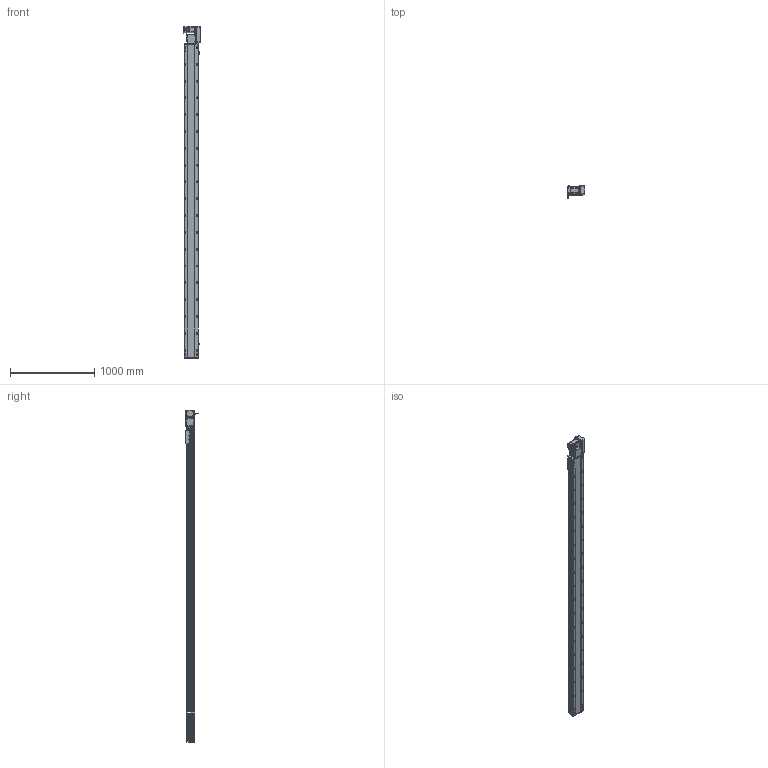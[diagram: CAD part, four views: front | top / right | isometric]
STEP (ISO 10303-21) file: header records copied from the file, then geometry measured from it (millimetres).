
FILE_DESCRIPTION (( 'STEP AP214' ), '1' );
FILE_NAME ('RTB17S-XX-3450-R-M75-C4.STEP', '2025-12-12T01:53:24', ( '' ), ( '' ), 'SwSTEP 2.0', 'SolidWorks 2018', '' );
FILE_SCHEMA (( 'AUTOMOTIVE_DESIGN' ));
Length unit declared in the file: millimetre
Products named in the file (15): RTB17S-L-007奻裔^RTB17S-XX-XX-R-M75-C4; RTB22S-GY-018P^RTB17S-R-々湍釱蚾饜-750W_RTB17S-XX-XX-R-M75-C4; RTB17S-L-014-T20-P75--々湍釱^RTB17S-R-々湍釱蚾饜-750W_RTB17S-XX-XX-R-M75-C4; RTB17S-XX-3450-R-M75-C4; RTB17S-賑釱^RTB17S-XX-XX-R-M75-C4; RTB17S-L-001-耜醱啣^RTB17S-XX-XX-R-M75-C4; RTB17S-R-々湍釱蚾饜-750W^RTB17S-XX-XX-R-M75-C4; EE672^RTB17S-XX-XX-R-M75-C4; RTB17S-L-004-賑釱^RTB17S-賑釱_RTB17S-XX-XX-R-M75-C4; RTH13-BL-012覜茼え俋离^RTB17S-賑釱_RTB17S-XX-XX-R-M75-C4; RTB22S-GY-005P^RTB17S-R-々湍釱蚾饜-750W_RTB17S-XX-XX-R-M75-C4; 750W萇儂^RTB17S-XX-XX-R-M75-C4; RTB17-R-011菁釱^RTB17S-XX-XX-R-M75-C4; RTB22S-GY-008-M75--萇儂啣^RTB17S-R-々湍釱蚾饜-750W_RTB17S-XX-XX-R-M75-C4; RTB22S-GY-017P^RTB17S-R-々湍釱蚾饜-750W_RTB17S-XX-XX-R-M75-C4
Assembly tree (17 placements, depth 3):
  RTB17S-XX-3450-R-M75-C4
    RTB17-R-011菁釱^RTB17S-XX-XX-R-M75-C4
    EE672^RTB17S-XX-XX-R-M75-C4  x3
    RTB17S-L-001-耜醱啣^RTB17S-XX-XX-R-M75-C4
    RTB17S-賑釱^RTB17S-XX-XX-R-M75-C4
      RTB17S-L-004-賑釱^RTB17S-賑釱_RTB17S-XX-XX-R-M75-C4
      RTH13-BL-012覜茼え俋离^RTB17S-賑釱_RTB17S-XX-XX-R-M75-C4
    RTB17S-L-007奻裔^RTB17S-XX-XX-R-M75-C4
    750W萇儂^RTB17S-XX-XX-R-M75-C4
    RTB17S-R-々湍釱蚾饜-750W^RTB17S-XX-XX-R-M75-C4
      RTB17S-L-014-T20-P75--々湍釱^RTB17S-R-々湍釱蚾饜-750W_RTB17S-XX-XX-R-M75-C4
      RTB22S-GY-005P^RTB17S-R-々湍釱蚾饜-750W_RTB17S-XX-XX-R-M75-C4
      RTB22S-GY-017P^RTB17S-R-々湍釱蚾饜-750W_RTB17S-XX-XX-R-M75-C4  x2
      RTB22S-GY-008-M75--萇儂啣^RTB17S-R-々湍釱蚾饜-750W_RTB17S-XX-XX-R-M75-C4
      RTB22S-GY-018P^RTB17S-R-々湍釱蚾饜-750W_RTB17S-XX-XX-R-M75-C4
Bounding box: 207.4 x 152.7 x 3949 mm (x, y, z)
Volume: 27511236 mm3; surface area: 5082124.3 mm2
Topology: 17 solids, 17 shells, 2297 faces, 6484 edges, 4202 vertices
Faces by surface type: plane 996, cylinder 885, bspline 294, cone 110, sphere 8, torus 4
Entity records: 68086 total; most frequent: CARTESIAN_POINT 20348, ORIENTED_EDGE 9812, DIRECTION 9032, EDGE_CURVE 4906, AXIS2_PLACEMENT_3D 3222, VERTEX_POINT 3206, LINE 2588, VECTOR 2588
